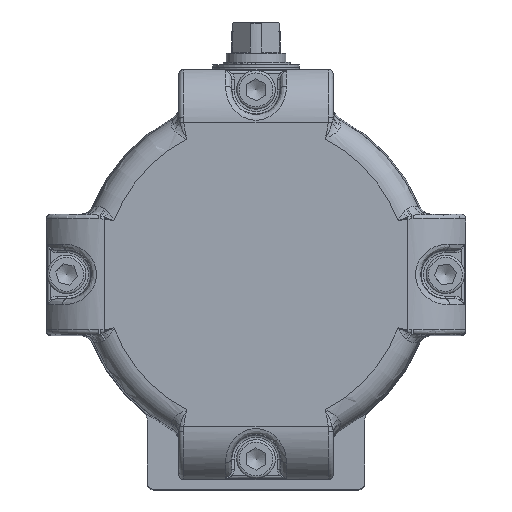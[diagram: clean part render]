
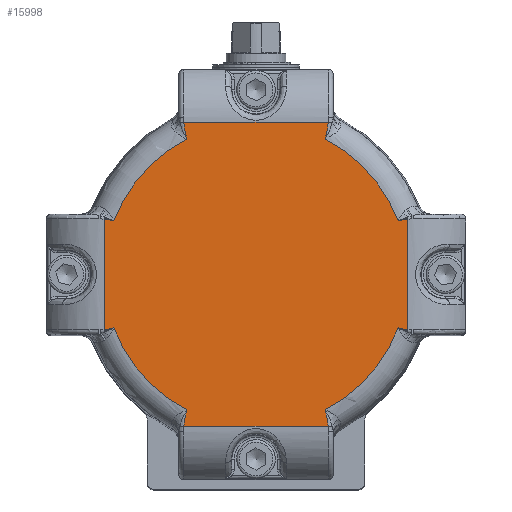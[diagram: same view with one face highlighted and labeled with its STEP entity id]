
A CAD part, top view. The second image highlights one B-rep face of the part: STEP entity #15998.
In plain terms, the highlighted planar face has unit normal (0, 0, 1).
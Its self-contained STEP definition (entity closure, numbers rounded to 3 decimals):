
#13865=CARTESIAN_POINT('',(-63.,22.913,115.));
#13866=VERTEX_POINT('',#13865);
#13920=CARTESIAN_POINT('',(-63.,-22.913,115.));
#13921=VERTEX_POINT('',#13920);
#13929=CARTESIAN_POINT('',(-63.,22.913,115.));
#13930=DIRECTION('',(0.0,-1.0,0.0));
#13931=VECTOR('',#13930,45.826);
#13932=LINE('',#13929,#13931);
#13933=EDGE_CURVE('',#13866,#13921,#13932,.T.);
#14426=CARTESIAN_POINT('',(29.933,-63.,115.));
#14427=VERTEX_POINT('',#14426);
#14428=CARTESIAN_POINT('',(-29.933,-63.,115.));
#14429=VERTEX_POINT('',#14428);
#14430=CARTESIAN_POINT('',(29.933,-63.,115.));
#14431=DIRECTION('',(-1.0,0.0,0.0));
#14432=VECTOR('',#14431,59.867);
#14433=LINE('',#14430,#14432);
#14434=EDGE_CURVE('',#14427,#14429,#14433,.T.);
#14980=CARTESIAN_POINT('',(63.,22.913,115.));
#14981=VERTEX_POINT('',#14980);
#14989=CARTESIAN_POINT('',(63.,-22.913,115.));
#14990=VERTEX_POINT('',#14989);
#14991=CARTESIAN_POINT('',(63.,22.913,115.));
#14992=DIRECTION('',(0.0,-1.0,0.0));
#14993=VECTOR('',#14992,45.826);
#14994=LINE('',#14991,#14993);
#14995=EDGE_CURVE('',#14981,#14990,#14994,.T.);
#15581=CARTESIAN_POINT('',(-29.933,63.,115.0));
#15582=VERTEX_POINT('',#15581);
#15590=CARTESIAN_POINT('',(29.933,63.,115.));
#15591=VERTEX_POINT('',#15590);
#15592=CARTESIAN_POINT('',(29.933,63.,115.));
#15593=DIRECTION('',(-1.0,0.0,0.0));
#15594=VECTOR('',#15593,59.867);
#15595=LINE('',#15592,#15594);
#15596=EDGE_CURVE('',#15591,#15582,#15595,.T.);
#15887=CARTESIAN_POINT('',(-31.458,0.,115.));
#15888=DIRECTION('',(0.0,0.0,1.0));
#15889=DIRECTION('',(0.0,-1.0,0.0));
#15890=AXIS2_PLACEMENT_3D('',#15887,#15888,#15889);
#15891=PLANE('',#15890);
#15892=ORIENTED_EDGE('',*,*,#14434,.F.);
#15893=CARTESIAN_POINT('',(28.626,-56.026,115.));
#15894=VERTEX_POINT('',#15893);
#15895=CARTESIAN_POINT('',(0.,-65.,115.));
#15896=DIRECTION('',(0.,0.,-1.0));
#15897=DIRECTION('',(0.982,0.188,0.));
#15898=AXIS2_PLACEMENT_3D('',#15895,#15896,#15897);
#15899=CIRCLE('',#15898,30.0);
#15900=EDGE_CURVE('',#15894,#14427,#15899,.T.);
#15901=ORIENTED_EDGE('',*,*,#15900,.F.);
#15902=CARTESIAN_POINT('',(58.88,-22.171,115.));
#15903=VERTEX_POINT('',#15902);
#15904=CARTESIAN_POINT('',(0.,0.,115.0));
#15905=DIRECTION('',(0.0,0.0,-1.0));
#15906=DIRECTION('',(-1.0,0.0,0.0));
#15907=AXIS2_PLACEMENT_3D('',#15904,#15905,#15906);
#15908=CIRCLE('',#15907,62.916);
#15909=EDGE_CURVE('',#15903,#15894,#15908,.T.);
#15910=ORIENTED_EDGE('',*,*,#15909,.F.);
#15911=CARTESIAN_POINT('',(65.,0.,115.));
#15912=DIRECTION('',(0.,0.,-1.0));
#15913=DIRECTION('',(-0.178,-0.984,0.));
#15914=AXIS2_PLACEMENT_3D('',#15911,#15912,#15913);
#15915=CIRCLE('',#15914,23.);
#15916=EDGE_CURVE('',#14990,#15903,#15915,.T.);
#15917=ORIENTED_EDGE('',*,*,#15916,.F.);
#15918=ORIENTED_EDGE('',*,*,#14995,.F.);
#15919=CARTESIAN_POINT('',(58.88,22.171,115.));
#15920=VERTEX_POINT('',#15919);
#15921=CARTESIAN_POINT('',(65.,0.,115.));
#15922=DIRECTION('',(0.,0.,-1.0));
#15923=DIRECTION('',(-0.178,0.984,0.));
#15924=AXIS2_PLACEMENT_3D('',#15921,#15922,#15923);
#15925=CIRCLE('',#15924,23.);
#15926=EDGE_CURVE('',#15920,#14981,#15925,.T.);
#15927=ORIENTED_EDGE('',*,*,#15926,.F.);
#15928=CARTESIAN_POINT('',(28.626,56.026,115.));
#15929=VERTEX_POINT('',#15928);
#15930=CARTESIAN_POINT('',(0.,0.,115.0));
#15931=DIRECTION('',(0.0,0.0,-1.0));
#15932=DIRECTION('',(-1.0,0.0,0.0));
#15933=AXIS2_PLACEMENT_3D('',#15930,#15931,#15932);
#15934=CIRCLE('',#15933,62.916);
#15935=EDGE_CURVE('',#15929,#15920,#15934,.T.);
#15936=ORIENTED_EDGE('',*,*,#15935,.F.);
#15937=CARTESIAN_POINT('',(0.,65.,115.));
#15938=DIRECTION('',(0.,0.,-1.0));
#15939=DIRECTION('',(0.982,-0.188,0.));
#15940=AXIS2_PLACEMENT_3D('',#15937,#15938,#15939);
#15941=CIRCLE('',#15940,30.0);
#15942=EDGE_CURVE('',#15591,#15929,#15941,.T.);
#15943=ORIENTED_EDGE('',*,*,#15942,.F.);
#15944=ORIENTED_EDGE('',*,*,#15596,.T.);
#15945=CARTESIAN_POINT('',(-28.626,56.026,115.0));
#15946=VERTEX_POINT('',#15945);
#15947=CARTESIAN_POINT('',(0.,65.,115.));
#15948=DIRECTION('',(0.,0.,-1.0));
#15949=DIRECTION('',(-0.982,-0.188,0.));
#15950=AXIS2_PLACEMENT_3D('',#15947,#15948,#15949);
#15951=CIRCLE('',#15950,30.);
#15952=EDGE_CURVE('',#15946,#15582,#15951,.T.);
#15953=ORIENTED_EDGE('',*,*,#15952,.F.);
#15954=CARTESIAN_POINT('',(-58.88,22.171,115.));
#15955=VERTEX_POINT('',#15954);
#15956=CARTESIAN_POINT('',(0.,0.,115.0));
#15957=DIRECTION('',(0.0,0.0,-1.0));
#15958=DIRECTION('',(-1.0,0.0,0.0));
#15959=AXIS2_PLACEMENT_3D('',#15956,#15957,#15958);
#15960=CIRCLE('',#15959,62.916);
#15961=EDGE_CURVE('',#15955,#15946,#15960,.T.);
#15962=ORIENTED_EDGE('',*,*,#15961,.F.);
#15963=CARTESIAN_POINT('',(-65.,0.,115.));
#15964=DIRECTION('',(0.,0.,-1.0));
#15965=DIRECTION('',(0.178,0.984,0.));
#15966=AXIS2_PLACEMENT_3D('',#15963,#15964,#15965);
#15967=CIRCLE('',#15966,23.);
#15968=EDGE_CURVE('',#13866,#15955,#15967,.T.);
#15969=ORIENTED_EDGE('',*,*,#15968,.F.);
#15970=ORIENTED_EDGE('',*,*,#13933,.T.);
#15971=CARTESIAN_POINT('',(-58.88,-22.171,115.));
#15972=VERTEX_POINT('',#15971);
#15973=CARTESIAN_POINT('',(-65.,0.,115.));
#15974=DIRECTION('',(0.,0.,-1.0));
#15975=DIRECTION('',(0.178,-0.984,0.));
#15976=AXIS2_PLACEMENT_3D('',#15973,#15974,#15975);
#15977=CIRCLE('',#15976,23.0);
#15978=EDGE_CURVE('',#15972,#13921,#15977,.T.);
#15979=ORIENTED_EDGE('',*,*,#15978,.F.);
#15980=CARTESIAN_POINT('',(-28.626,-56.026,115.));
#15981=VERTEX_POINT('',#15980);
#15982=CARTESIAN_POINT('',(0.,0.,115.0));
#15983=DIRECTION('',(0.0,0.0,-1.0));
#15984=DIRECTION('',(-1.0,0.0,0.0));
#15985=AXIS2_PLACEMENT_3D('',#15982,#15983,#15984);
#15986=CIRCLE('',#15985,62.916);
#15987=EDGE_CURVE('',#15981,#15972,#15986,.T.);
#15988=ORIENTED_EDGE('',*,*,#15987,.F.);
#15989=CARTESIAN_POINT('',(0.,-65.,115.));
#15990=DIRECTION('',(0.,0.,-1.0));
#15991=DIRECTION('',(-0.982,0.188,0.));
#15992=AXIS2_PLACEMENT_3D('',#15989,#15990,#15991);
#15993=CIRCLE('',#15992,30.0);
#15994=EDGE_CURVE('',#14429,#15981,#15993,.T.);
#15995=ORIENTED_EDGE('',*,*,#15994,.F.);
#15996=EDGE_LOOP('',(#15892,#15901,#15910,#15917,#15918,#15927,#15936,#15943,#15944,#15953,#15962,#15969,#15970,#15979,#15988,#15995));
#15997=FACE_OUTER_BOUND('',#15996,.T.);
#15998=ADVANCED_FACE('',(#15997),#15891,.T.);
